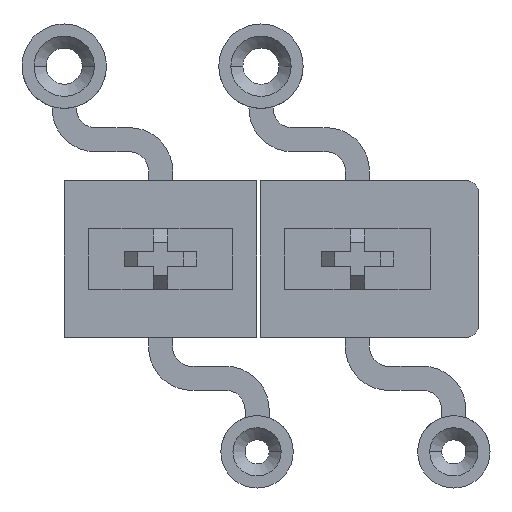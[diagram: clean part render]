
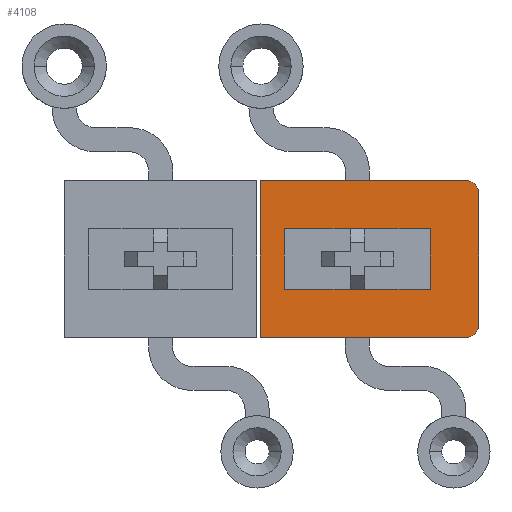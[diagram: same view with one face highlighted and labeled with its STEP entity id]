
A CAD part, front view. The second image highlights one B-rep face of the part: STEP entity #4108.
In plain terms, the highlighted planar face has unit normal (0, -1, 0).
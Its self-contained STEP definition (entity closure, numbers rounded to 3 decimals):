
#2828=DIRECTION('',(-1.,0.,0.));
#2829=VECTOR('',#2828,0.6);
#2830=CARTESIAN_POINT('',(12.525,62.5,16.25));
#2831=LINE('',#2830,#2829);
#2832=DIRECTION('',(1.,0.,0.));
#2833=VECTOR('',#2832,2.725);
#2834=CARTESIAN_POINT('',(9.2,62.5,16.25));
#2835=LINE('',#2834,#2833);
#2836=DIRECTION('',(0.,0.,1.));
#2837=VECTOR('',#2836,2.5);
#2838=CARTESIAN_POINT('',(9.2,62.5,13.75));
#2839=LINE('',#2838,#2837);
#2840=DIRECTION('',(-1.,0.,0.));
#2841=VECTOR('',#2840,2.725);
#2842=CARTESIAN_POINT('',(11.925,62.5,13.75));
#2843=LINE('',#2842,#2841);
#2844=DIRECTION('',(1.,0.,0.));
#2845=VECTOR('',#2844,0.6);
#2846=CARTESIAN_POINT('',(11.925,62.5,13.75));
#2847=LINE('',#2846,#2845);
#2848=DIRECTION('',(-1.,0.,0.));
#2849=VECTOR('',#2848,2.725);
#2850=CARTESIAN_POINT('',(15.25,62.5,13.75));
#2851=LINE('',#2850,#2849);
#2852=DIRECTION('',(0.,0.,-1.));
#2853=VECTOR('',#2852,2.5);
#2854=CARTESIAN_POINT('',(15.25,62.5,16.25));
#2855=LINE('',#2854,#2853);
#2856=DIRECTION('',(1.,0.,0.));
#2857=VECTOR('',#2856,2.725);
#2858=CARTESIAN_POINT('',(12.525,62.5,16.25));
#2859=LINE('',#2858,#2857);
#2860=CARTESIAN_POINT('',(16.75,62.5,17.75));
#2861=DIRECTION('',(0.,-1.,0.));
#2862=DIRECTION('',(1.,0.,0.));
#2863=AXIS2_PLACEMENT_3D('',#2860,#2861,#2862);
#2865=DIRECTION('',(0.,0.,1.));
#2866=VECTOR('',#2865,5.5);
#2867=CARTESIAN_POINT('',(17.25,62.5,12.25));
#2868=LINE('',#2867,#2866);
#2869=CARTESIAN_POINT('',(16.75,62.5,12.25));
#2870=DIRECTION('',(0.,-1.,0.));
#2871=DIRECTION('',(0.,0.,-1.));
#2872=AXIS2_PLACEMENT_3D('',#2869,#2870,#2871);
#2874=DIRECTION('',(1.,0.,0.));
#2875=VECTOR('',#2874,8.55);
#2876=CARTESIAN_POINT('',(8.2,62.5,11.75));
#2877=LINE('',#2876,#2875);
#2878=DIRECTION('',(0.,0.,-1.));
#2879=VECTOR('',#2878,6.5);
#2880=CARTESIAN_POINT('',(8.2,62.5,18.25));
#2881=LINE('',#2880,#2879);
#2882=DIRECTION('',(-1.,0.,0.));
#2883=VECTOR('',#2882,8.55);
#2884=CARTESIAN_POINT('',(16.75,62.5,18.25));
#2885=LINE('',#2884,#2883);
#3435=CARTESIAN_POINT('',(8.2,62.5,18.25));
#3436=CARTESIAN_POINT('',(8.2,62.5,11.75));
#3437=VERTEX_POINT('',#3435);
#3438=VERTEX_POINT('',#3436);
#3439=CARTESIAN_POINT('',(9.2,62.5,13.75));
#3440=CARTESIAN_POINT('',(9.2,62.5,16.25));
#3441=VERTEX_POINT('',#3439);
#3442=VERTEX_POINT('',#3440);
#3443=CARTESIAN_POINT('',(15.25,62.5,16.25));
#3444=CARTESIAN_POINT('',(15.25,62.5,13.75));
#3445=VERTEX_POINT('',#3443);
#3446=VERTEX_POINT('',#3444);
#3591=CARTESIAN_POINT('',(17.25,62.5,17.75));
#3592=VERTEX_POINT('',#3591);
#3593=CARTESIAN_POINT('',(16.75,62.5,18.25));
#3594=VERTEX_POINT('',#3593);
#3599=CARTESIAN_POINT('',(16.75,62.5,11.75));
#3600=VERTEX_POINT('',#3599);
#3601=CARTESIAN_POINT('',(17.25,62.5,12.25));
#3602=VERTEX_POINT('',#3601);
#3652=CARTESIAN_POINT('',(11.925,62.5,16.25));
#3654=VERTEX_POINT('',#3652);
#3655=CARTESIAN_POINT('',(12.525,62.5,16.25));
#3656=VERTEX_POINT('',#3655);
#3660=CARTESIAN_POINT('',(12.525,62.5,13.75));
#3662=VERTEX_POINT('',#3660);
#3663=CARTESIAN_POINT('',(11.925,62.5,13.75));
#3664=VERTEX_POINT('',#3663);
#4074=CARTESIAN_POINT('',(0.,62.5,0.));
#4075=DIRECTION('',(0.,-1.,0.));
#4076=DIRECTION('',(-1.,0.,0.));
#4077=AXIS2_PLACEMENT_3D('',#4074,#4075,#4076);
#4078=PLANE('',#4077);
#4079=ORIENTED_EDGE('',*,*,#3716,.F.);
#4081=ORIENTED_EDGE('',*,*,#4080,.F.);
#4082=ORIENTED_EDGE('',*,*,#4067,.F.);
#4083=ORIENTED_EDGE('',*,*,#4055,.F.);
#4085=ORIENTED_EDGE('',*,*,#4084,.F.);
#4087=ORIENTED_EDGE('',*,*,#4086,.F.);
#4088=EDGE_LOOP('',(#4079,#4081,#4082,#4083,#4085,#4087));
#4089=FACE_OUTER_BOUND('',#4088,.F.);
#4091=ORIENTED_EDGE('',*,*,#4090,.T.);
#4093=ORIENTED_EDGE('',*,*,#4092,.F.);
#4095=ORIENTED_EDGE('',*,*,#4094,.F.);
#4097=ORIENTED_EDGE('',*,*,#4096,.F.);
#4099=ORIENTED_EDGE('',*,*,#4098,.T.);
#4101=ORIENTED_EDGE('',*,*,#4100,.F.);
#4103=ORIENTED_EDGE('',*,*,#4102,.F.);
#4105=ORIENTED_EDGE('',*,*,#4104,.F.);
#4106=EDGE_LOOP('',(#4091,#4093,#4095,#4097,#4099,#4101,#4103,#4105));
#4107=FACE_BOUND('',#4106,.F.);
#4108=ADVANCED_FACE('',(#4089,#4107),#4078,.T.);
#2864=CIRCLE('',#2863,0.5);
#2873=CIRCLE('',#2872,0.5);
#3716=EDGE_CURVE('',#3592,#3594,#2864,.T.);
#4055=EDGE_CURVE('',#3438,#3600,#2877,.T.);
#4067=EDGE_CURVE('',#3600,#3602,#2873,.T.);
#4080=EDGE_CURVE('',#3602,#3592,#2868,.T.);
#4084=EDGE_CURVE('',#3437,#3438,#2881,.T.);
#4086=EDGE_CURVE('',#3594,#3437,#2885,.T.);
#4090=EDGE_CURVE('',#3656,#3654,#2831,.T.);
#4092=EDGE_CURVE('',#3442,#3654,#2835,.T.);
#4094=EDGE_CURVE('',#3441,#3442,#2839,.T.);
#4096=EDGE_CURVE('',#3664,#3441,#2843,.T.);
#4098=EDGE_CURVE('',#3664,#3662,#2847,.T.);
#4100=EDGE_CURVE('',#3446,#3662,#2851,.T.);
#4102=EDGE_CURVE('',#3445,#3446,#2855,.T.);
#4104=EDGE_CURVE('',#3656,#3445,#2859,.T.);
